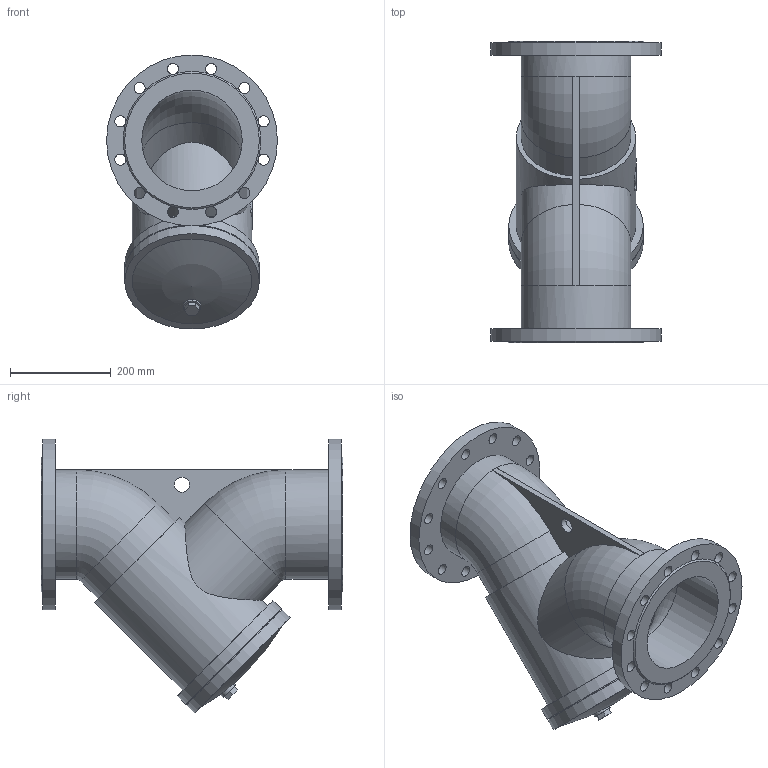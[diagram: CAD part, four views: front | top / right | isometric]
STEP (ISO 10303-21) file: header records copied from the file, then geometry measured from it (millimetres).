
FILE_DESCRIPTION(('STEP AP203'), '1');
FILE_NAME('Ôèëüòð ñåò÷àòûé ôëàíöåâûé 021Y DN200 PN16', '', ('UNSPECIFIED'), ('UNSPECIFIED'), 'ASCON STEP Converter 1.6', 'ASCON Math Kernel', '');
FILE_SCHEMA(('CONFIG_CONTROL_DESIGN'));
Length unit declared in the file: millimetre
Bounding box: 340 x 600 x 545 mm (x, y, z)
Volume: 19826977.5 mm3; surface area: 1297719.3 mm2
Topology: 1 solids, 1 shells, 92 faces, 290 edges, 189 vertices
Faces by surface type: cylinder 48, plane 37, torus 4, cone 2, sphere 1
Full cylindrical faces by diameter (mm): 22 x24, 30 x1, 35 x1, 200 x4, 218 x2, 238 x1, 256 x1, 268 x2, 340 x2
Entity records: 6377 total; most frequent: CARTESIAN_POINT 3053, DIRECTION 543, ORIENTED_EDGE 490, EDGE_CURVE 245, AXIS2_PLACEMENT_3D 242, VERTEX_POINT 188, EDGE_LOOP 175, CIRCLE 149
